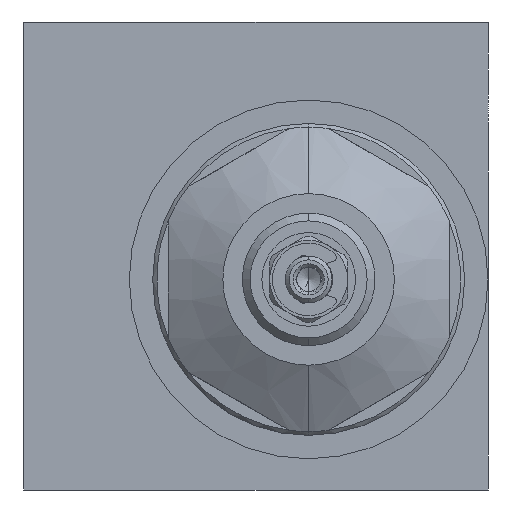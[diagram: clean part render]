
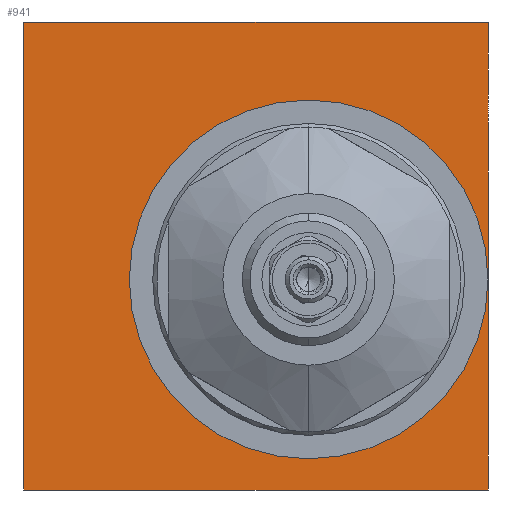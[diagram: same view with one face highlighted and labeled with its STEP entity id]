
A CAD part, left-side view. The second image highlights one B-rep face of the part: STEP entity #941.
In plain terms, the highlighted planar face has unit normal (-1, 0, 0).
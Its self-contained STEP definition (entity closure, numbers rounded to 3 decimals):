
#367 = CARTESIAN_POINT ( 'NONE',  ( 0., -6.75, 20. ) ) ;
#728 = CARTESIAN_POINT ( 'NONE',  ( 0., -6.75, -26. ) ) ;
#941 = ADVANCED_FACE ( 'NONE', ( #13341, #5412 ), #16075, .T. ) ;
#2461 = CARTESIAN_POINT ( 'NONE',  ( 0., -29.75, 30. ) ) ;
#3678 = VERTEX_POINT ( 'NONE', #367 ) ;
#4374 = CIRCLE ( 'NONE', #7307, 23. ) ;
#4839 = AXIS2_PLACEMENT_3D ( 'NONE', #11609, #11329, #11155 ) ;
#5412 = FACE_BOUND ( 'NONE', #7389, .T. ) ;
#5484 = ORIENTED_EDGE ( 'NONE', *, *, #13589, .F. ) ;
#6302 = VERTEX_POINT ( 'NONE', #6742 ) ;
#6742 = CARTESIAN_POINT ( 'NONE',  ( 0., 29.75, -30. ) ) ;
#7144 = VERTEX_POINT ( 'NONE', #9199 ) ;
#7307 = AXIS2_PLACEMENT_3D ( 'NONE', #14704, #14668, #14616 ) ;
#7389 = EDGE_LOOP ( 'NONE', ( #11605, #12188 ) ) ;
#7423 = VERTEX_POINT ( 'NONE', #2461 ) ;
#7888 = DIRECTION ( 'NONE',  ( 0., 0., 1. ) ) ;
#7916 = EDGE_LOOP ( 'NONE', ( #8369, #5484, #9868, #12173 ) ) ;
#7945 = DIRECTION ( 'NONE',  ( -1., 0., 0. ) ) ;
#8010 = CARTESIAN_POINT ( 'NONE',  ( 0., -6.75, -3. ) ) ;
#8369 = ORIENTED_EDGE ( 'NONE', *, *, #13586, .F. ) ;
#9044 = DIRECTION ( 'NONE',  ( 0., 0., 1. ) ) ;
#9199 = CARTESIAN_POINT ( 'NONE',  ( 0., -29.75, -30. ) ) ;
#9340 = CARTESIAN_POINT ( 'NONE',  ( 0., 29.75, 30. ) ) ;
#9401 = CARTESIAN_POINT ( 'NONE',  ( 0., -29.75, 30. ) ) ;
#9456 = DIRECTION ( 'NONE',  ( 0., -1., 0. ) ) ;
#9684 = VERTEX_POINT ( 'NONE', #16282 ) ;
#9868 = ORIENTED_EDGE ( 'NONE', *, *, #13614, .F. ) ;
#10520 = VERTEX_POINT ( 'NONE', #728 ) ;
#10663 = DIRECTION ( 'NONE',  ( 0., 0., -1. ) ) ;
#11008 = CARTESIAN_POINT ( 'NONE',  ( 0., -29.75, -30. ) ) ;
#11075 = CARTESIAN_POINT ( 'NONE',  ( 0., -29.75, 30. ) ) ;
#11155 = DIRECTION ( 'NONE',  ( 0., 0., 1. ) ) ;
#11329 = DIRECTION ( 'NONE',  ( -1., 0., 0. ) ) ;
#11484 = VECTOR ( 'NONE', #9044, 1000. ) ;
#11499 = VECTOR ( 'NONE', #9456, 1000. ) ;
#11522 = LINE ( 'NONE', #9401, #11499 ) ;
#11578 = CIRCLE ( 'NONE', #14448, 23. ) ;
#11596 = LINE ( 'NONE', #9340, #11484 ) ;
#11605 = ORIENTED_EDGE ( 'NONE', *, *, #13644, .F. ) ;
#11607 = DIRECTION ( 'NONE',  ( 0., 1., 0. ) ) ;
#11609 = CARTESIAN_POINT ( 'NONE',  ( 0., 29.75, -30. ) ) ;
#11795 = VECTOR ( 'NONE', #10663, 1000. ) ;
#11821 = VECTOR ( 'NONE', #11607, 1000. ) ;
#11872 = LINE ( 'NONE', #11008, #11821 ) ;
#11887 = LINE ( 'NONE', #11075, #11795 ) ;
#12173 = ORIENTED_EDGE ( 'NONE', *, *, #13637, .F. ) ;
#12188 = ORIENTED_EDGE ( 'NONE', *, *, #14576, .F. ) ;
#13341 = FACE_OUTER_BOUND ( 'NONE', #7916, .T. ) ;
#13586 = EDGE_CURVE ( 'NONE', #7144, #6302, #11872, .T. ) ;
#13589 = EDGE_CURVE ( 'NONE', #7423, #7144, #11887, .T. ) ;
#13614 = EDGE_CURVE ( 'NONE', #9684, #7423, #11522, .T. ) ;
#13637 = EDGE_CURVE ( 'NONE', #6302, #9684, #11596, .T. ) ;
#13644 = EDGE_CURVE ( 'NONE', #3678, #10520, #11578, .T. ) ;
#14448 = AXIS2_PLACEMENT_3D ( 'NONE', #8010, #7945, #7888 ) ;
#14576 = EDGE_CURVE ( 'NONE', #10520, #3678, #4374, .T. ) ;
#14616 = DIRECTION ( 'NONE',  ( 0., 0., 1. ) ) ;
#14668 = DIRECTION ( 'NONE',  ( -1., 0., 0. ) ) ;
#14704 = CARTESIAN_POINT ( 'NONE',  ( 0., -6.75, -3. ) ) ;
#16075 = PLANE ( 'NONE',  #4839 ) ;
#16282 = CARTESIAN_POINT ( 'NONE',  ( 0., 29.75, 30. ) ) ;
